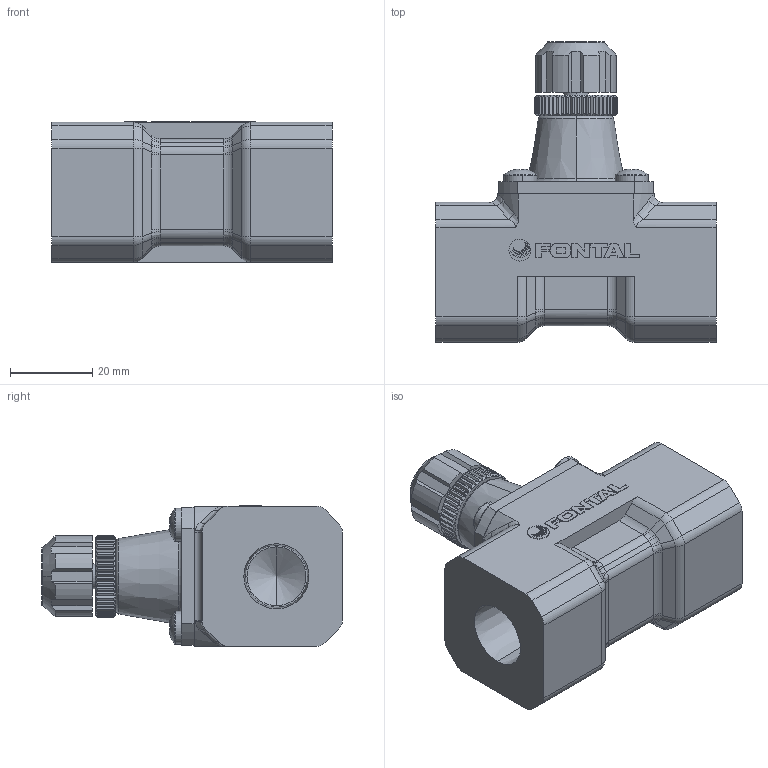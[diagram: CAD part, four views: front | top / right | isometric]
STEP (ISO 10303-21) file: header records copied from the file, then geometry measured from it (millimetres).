
FILE_DESCRIPTION (( 'STEP AP203' ), '1' );
FILE_NAME ('SP-15-3.STEP', '2016-01-14T20:21:19', ( '' ), ( '' ), 'SwSTEP 2.0', 'SolidWorks 2014', '' );
FILE_SCHEMA (( 'CONFIG_CONTROL_DESIGN' ));
Length unit declared in the file: millimetre
Products named in the file (8): SP-15-2; ISO 7045 - M4 x 10 - Z; SP-15-1; SP-15-3; SP-06-6; ZH-15-MARK; SPE-10-4; SPE-10-3
Assembly tree (10 placements, depth 2):
  SP-15-3
    SP-15-1
    SP-15-2
    ISO 7045 - M4 x 10 - Z  x4
    SPE-10-3
    SPE-10-4
    SP-06-6
    ZH-15-MARK
Bounding box: 68 x 73 x 34.15 mm (x, y, z)
Volume: 81608.4 mm3; surface area: 20223.9 mm2
Topology: 16 solids, 16 shells, 695 faces, 1654 edges, 984 vertices
Faces by surface type: plane 312, cylinder 167, cone 132, bspline 44, torus 24, sphere 16
Entity records: 18514 total; most frequent: CARTESIAN_POINT 4565, ORIENTED_EDGE 2784, DIRECTION 2660, EDGE_CURVE 1392, AXIS2_PLACEMENT_3D 1032, VERTEX_POINT 831, EDGE_LOOP 615, VECTOR 596
